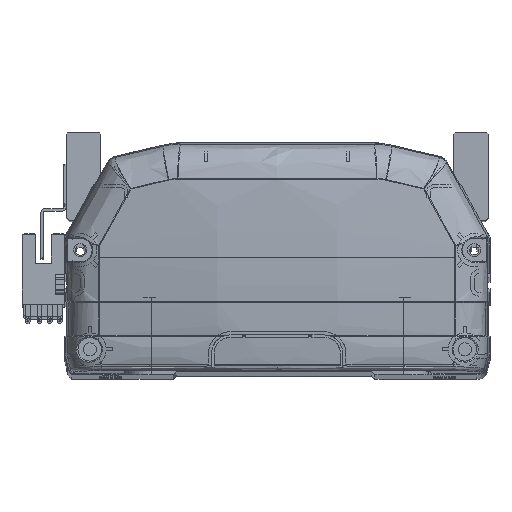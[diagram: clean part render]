
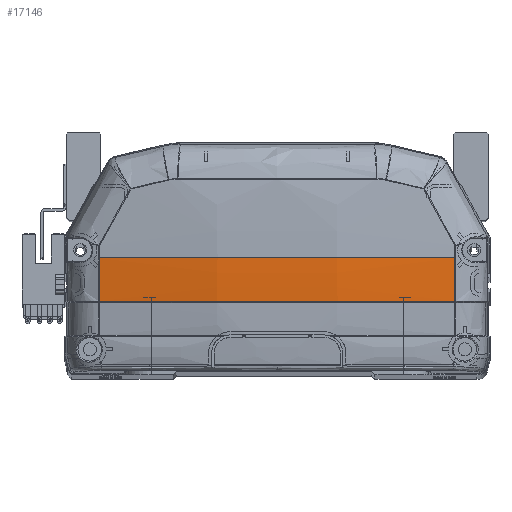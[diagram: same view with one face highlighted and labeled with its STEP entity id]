
A CAD part, top view. The second image highlights one B-rep face of the part: STEP entity #17146.
In plain terms, the highlighted free-form (B-spline) face has degree [3, 3] with [4, 4] control points.
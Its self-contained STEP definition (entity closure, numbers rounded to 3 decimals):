
#378 = CARTESIAN_POINT ( 'NONE',  ( 19.295, 21.828, -11.186 ) ) ;
#1741 =( BOUNDED_SURFACE ( )  B_SPLINE_SURFACE ( 3, 3, ( 
 ( #22523, #31662, #9082, #27020 ),
 ( #378, #22328, #9273, #17649 ),
 ( #13776, #31480, #8513, #26808 ),
 ( #4828, #8000, #35922, #22137 ) ),
 .UNSPECIFIED., .F., .F., .F. ) 
 B_SPLINE_SURFACE_WITH_KNOTS ( ( 4, 4 ),
 ( 4, 4 ),
 ( 0., 1. ),
 ( 0., 1. ),
 .UNSPECIFIED. ) 
 GEOMETRIC_REPRESENTATION_ITEM ( )  RATIONAL_B_SPLINE_SURFACE ( (
 ( 1., 1., 1., 1.),
 ( 0.99, 0.99, 0.99, 0.99),
 ( 0.99, 0.99, 0.99, 0.99),
 ( 1., 1., 1., 1.) ) ) 
 REPRESENTATION_ITEM ( '' )  SURFACE ( )  );
#2334 = CARTESIAN_POINT ( 'NONE',  ( 6452.613, 35.969, -5.158 ) ) ;
#4641 = VERTEX_POINT ( 'NONE', #37281 ) ;
#4702 = B_SPLINE_CURVE_WITH_KNOTS ( 'NONE', 3,
 ( #38719, #29634, #56578, #21240, #25735, #25538, #56780, #47411, #20854, #42815, #34839, #34253, #56977 ),
 .UNSPECIFIED., .F., .F.,
 ( 4, 2, 2, 1, 2, 2, 4 ),
 ( 0., 0.25, 0.375, 0.438, 0.469, 0.5, 1. ),
 .UNSPECIFIED. ) ;
#4828 = CARTESIAN_POINT ( 'NONE',  ( -57.335, 22.148, -4.7 ) ) ;
#6947 = ORIENTED_EDGE ( 'NONE', *, *, #23630, .F. ) ;
#6958 = DIRECTION ( 'NONE',  ( -1., 0., 0. ) ) ;
#8000 = CARTESIAN_POINT ( 'NONE',  ( -57.335, 26.762, -4.928 ) ) ;
#8215 = ORIENTED_EDGE ( 'NONE', *, *, #37289, .T. ) ;
#8513 = CARTESIAN_POINT ( 'NONE',  ( -19.295, 31.274, -11.535 ) ) ;
#9082 = CARTESIAN_POINT ( 'NONE',  ( 57.335, 31.38, -5.042 ) ) ;
#9273 = CARTESIAN_POINT ( 'NONE',  ( 19.295, 31.274, -11.535 ) ) ;
#9948 = AXIS2_PLACEMENT_3D ( 'NONE', #2334, #51034, #6958 ) ;
#13035 = EDGE_LOOP ( 'NONE', ( #6947, #52460, #29765, #8215, #49206 ) ) ;
#13776 = CARTESIAN_POINT ( 'NONE',  ( -19.295, 21.828, -11.186 ) ) ;
#14612 = AXIS2_PLACEMENT_3D ( 'NONE', #56486, #21724, #43287 ) ;
#17146 = ADVANCED_FACE ( 'NONE', ( #33006 ), #1741, .T. ) ;
#17649 = CARTESIAN_POINT ( 'NONE',  ( 19.295, 36., -11.535 ) ) ;
#19478 = VERTEX_POINT ( 'NONE', #53168 ) ;
#20854 = CARTESIAN_POINT ( 'NONE',  ( 2.357, 22.225, -9.562 ) ) ;
#21240 = CARTESIAN_POINT ( 'NONE',  ( 23.877, 22.225, -8.763 ) ) ;
#21517 = VERTEX_POINT ( 'NONE', #29551 ) ;
#21724 = DIRECTION ( 'NONE',  ( 0., 1., 0. ) ) ;
#22137 = CARTESIAN_POINT ( 'NONE',  ( -57.335, 36., -5.042 ) ) ;
#22328 = CARTESIAN_POINT ( 'NONE',  ( 19.295, 26.549, -11.419 ) ) ;
#22523 = CARTESIAN_POINT ( 'NONE',  ( 57.335, 22.148, -4.7 ) ) ;
#23630 = EDGE_CURVE ( 'NONE', #21517, #49003, #33504, .T. ) ;
#25428 = CARTESIAN_POINT ( 'NONE',  ( 56.661, 22.225, -4.818 ) ) ;
#25538 = CARTESIAN_POINT ( 'NONE',  ( 11.954, 22.225, -9.367 ) ) ;
#25735 = CARTESIAN_POINT ( 'NONE',  ( 19.121, 22.225, -9.064 ) ) ;
#26808 = CARTESIAN_POINT ( 'NONE',  ( -19.295, 36., -11.535 ) ) ;
#27020 = CARTESIAN_POINT ( 'NONE',  ( 57.335, 36., -5.042 ) ) ;
#29551 = CARTESIAN_POINT ( 'NONE',  ( 56.647, 36., -5.158 ) ) ;
#29634 = CARTESIAN_POINT ( 'NONE',  ( 47.432, 22.225, -6.377 ) ) ;
#29765 = ORIENTED_EDGE ( 'NONE', *, *, #39306, .F. ) ;
#29926 = CARTESIAN_POINT ( 'NONE',  ( 56.647, 31.387, -5.158 ) ) ;
#31480 = CARTESIAN_POINT ( 'NONE',  ( -19.295, 26.549, -11.419 ) ) ;
#31662 = CARTESIAN_POINT ( 'NONE',  ( 57.335, 26.762, -4.928 ) ) ;
#33006 = FACE_OUTER_BOUND ( 'NONE', #13035, .T. ) ;
#33504 = CIRCLE ( 'NONE', #14612, 340.733 ) ;
#34253 = CARTESIAN_POINT ( 'NONE',  ( -38.235, 22.225, -7.93 ) ) ;
#34343 = CARTESIAN_POINT ( 'NONE',  ( -56.661, 22.225, -4.818 ) ) ;
#34470 = EDGE_CURVE ( 'NONE', #49003, #4641, #37505, .T. ) ;
#34839 = CARTESIAN_POINT ( 'NONE',  ( -19.28, 22.225, -9.565 ) ) ;
#35922 = CARTESIAN_POINT ( 'NONE',  ( -57.335, 31.38, -5.042 ) ) ;
#37281 = CARTESIAN_POINT ( 'NONE',  ( -56.661, 22.225, -4.818 ) ) ;
#37289 = EDGE_CURVE ( 'NONE', #19478, #4641, #4702, .T. ) ;
#37505 = B_SPLINE_CURVE_WITH_KNOTS ( 'NONE', 3,
 ( #47705, #56667, #43658, #34343 ),
 .UNSPECIFIED., .F., .F.,
 ( 4, 4 ),
 ( 0., 1. ),
 .UNSPECIFIED. ) ;
#38719 = CARTESIAN_POINT ( 'NONE',  ( 56.661, 22.225, -4.818 ) ) ;
#39306 = EDGE_CURVE ( 'NONE', #19478, #54594, #51264, .T. ) ;
#39589 = CARTESIAN_POINT ( 'NONE',  ( -56.647, 36., -5.158 ) ) ;
#39750 = CARTESIAN_POINT ( 'NONE',  ( 56.647, 35.969, -5.158 ) ) ;
#42359 = CIRCLE ( 'NONE', #9948, 6395.966 ) ;
#42718 = CARTESIAN_POINT ( 'NONE',  ( 56.647, 35.969, -5.158 ) ) ;
#42815 = CARTESIAN_POINT ( 'NONE',  ( 1.152, 22.225, -9.568 ) ) ;
#43287 = DIRECTION ( 'NONE',  ( 0., 0., -1. ) ) ;
#43658 = CARTESIAN_POINT ( 'NONE',  ( -56.652, 26.814, -5.045 ) ) ;
#47411 = CARTESIAN_POINT ( 'NONE',  ( 4.761, 22.225, -9.537 ) ) ;
#47705 = CARTESIAN_POINT ( 'NONE',  ( -56.647, 36., -5.158 ) ) ;
#49003 = VERTEX_POINT ( 'NONE', #39589 ) ;
#49206 = ORIENTED_EDGE ( 'NONE', *, *, #34470, .F. ) ;
#51034 = DIRECTION ( 'NONE',  ( 0., 0., -1. ) ) ;
#51264 = B_SPLINE_CURVE_WITH_KNOTS ( 'NONE', 3,
 ( #25428, #56482, #29926, #42718 ),
 .UNSPECIFIED., .F., .F.,
 ( 4, 4 ),
 ( 0., 1. ),
 .UNSPECIFIED. ) ;
#52460 = ORIENTED_EDGE ( 'NONE', *, *, #56240, .F. ) ;
#53168 = CARTESIAN_POINT ( 'NONE',  ( 56.661, 22.225, -4.818 ) ) ;
#54594 = VERTEX_POINT ( 'NONE', #39750 ) ;
#56240 = EDGE_CURVE ( 'NONE', #54594, #21517, #42359, .T. ) ;
#56482 = CARTESIAN_POINT ( 'NONE',  ( 56.652, 26.806, -5.044 ) ) ;
#56486 = CARTESIAN_POINT ( 'NONE',  ( 0., 36., 330.833 ) ) ;
#56578 = CARTESIAN_POINT ( 'NONE',  ( 38.071, 22.225, -7.566 ) ) ;
#56667 = CARTESIAN_POINT ( 'NONE',  ( -56.647, 31.405, -5.158 ) ) ;
#56780 = CARTESIAN_POINT ( 'NONE',  ( 8.363, 22.225, -9.48 ) ) ;
#56977 = CARTESIAN_POINT ( 'NONE',  ( -56.661, 22.225, -4.818 ) ) ;
